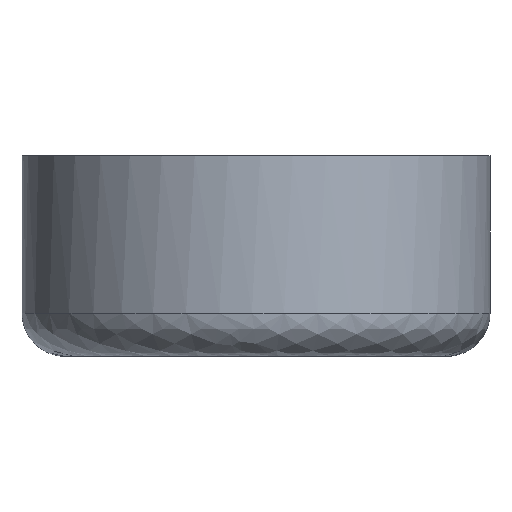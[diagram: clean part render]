
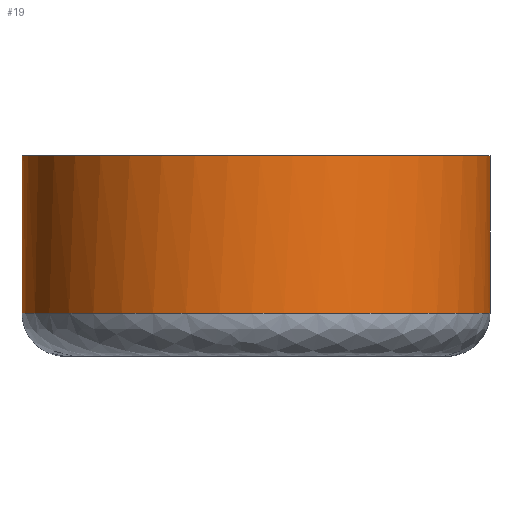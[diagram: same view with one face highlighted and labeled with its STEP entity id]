
A CAD part, front view. The second image highlights one B-rep face of the part: STEP entity #19.
In plain terms, the highlighted free-form (B-spline) face has degree [2, 1] with [5, 2] control points.
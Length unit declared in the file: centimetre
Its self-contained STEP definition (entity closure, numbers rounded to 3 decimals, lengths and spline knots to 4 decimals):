
#19=ADVANCED_FACE('',(#51),#452,.T.);
#51=FACE_OUTER_BOUND('',#84,.T.);
#84=EDGE_LOOP('',(#131,#132,#133,#134));
#131=ORIENTED_EDGE('',*,*,#268,.T.);
#132=ORIENTED_EDGE('',*,*,#269,.T.);
#133=ORIENTED_EDGE('',*,*,#267,.T.);
#134=ORIENTED_EDGE('',*,*,#266,.T.);
#266=EDGE_CURVE('',#409,#407,#332,.T.);
#267=EDGE_CURVE('',#410,#409,#364,.T.);
#268=EDGE_CURVE('',#407,#408,#365,.T.);
#269=EDGE_CURVE('',#408,#410,#333,.T.);
#332=B_SPLINE_CURVE_WITH_KNOTS('',1,(#1271,#1272),.UNSPECIFIED.,.F.,.F.,
(2,2),(0.7762,2.3071),.UNSPECIFIED.);
#333=B_SPLINE_CURVE_WITH_KNOTS('',1,(#1283,#1284),.UNSPECIFIED.,.F.,.F.,
(2,2),(-2.3071,-0.7762),.UNSPECIFIED.);
#364=(
BOUNDED_CURVE()
B_SPLINE_CURVE(2,(#1273,#1274,#1275,#1276,#1277),.UNSPECIFIED.,.F.,.F.)
B_SPLINE_CURVE_WITH_KNOTS((3,2,3),(0.,6.283,12.5661),
 .UNSPECIFIED.)
CURVE()
GEOMETRIC_REPRESENTATION_ITEM()
RATIONAL_B_SPLINE_CURVE((1.,0.707,1.,0.707,1.))
REPRESENTATION_ITEM('')
);
#365=(
BOUNDED_CURVE()
B_SPLINE_CURVE(2,(#1278,#1279,#1280,#1281,#1282),.UNSPECIFIED.,.F.,.F.)
B_SPLINE_CURVE_WITH_KNOTS((3,2,3),(-15.708,-7.854,0.),
 .UNSPECIFIED.)
CURVE()
GEOMETRIC_REPRESENTATION_ITEM()
RATIONAL_B_SPLINE_CURVE((1.,0.707,1.,0.707,1.))
REPRESENTATION_ITEM('')
);
#407=VERTEX_POINT('',#1094);
#408=VERTEX_POINT('',#1095);
#409=VERTEX_POINT('',#1096);
#410=VERTEX_POINT('',#1097);
#452=(
BOUNDED_SURFACE()
B_SPLINE_SURFACE(2,1,((#944,#945),(#946,#947),(#948,#949),(#950,#951),(#952,
#953)),.UNSPECIFIED.,.F.,.F.,.F.)
B_SPLINE_SURFACE_WITH_KNOTS((3,2,3),(2,2),(0.,7.854,15.708),
(0.7762,2.3071),.UNSPECIFIED.)
GEOMETRIC_REPRESENTATION_ITEM()
RATIONAL_B_SPLINE_SURFACE(((1.,1.),(0.707,0.707),
(1.,1.),(0.707,0.707),(1.,1.)))
REPRESENTATION_ITEM('')
SURFACE()
);
#944=CARTESIAN_POINT('',(5.4289,0.,0.9));
#945=CARTESIAN_POINT('',(5.4289,0.,4.2003));
#946=CARTESIAN_POINT('',(5.4289,-4.9,0.9));
#947=CARTESIAN_POINT('',(5.4289,-4.9,4.2003));
#948=CARTESIAN_POINT('',(10.3289,-4.9,0.9));
#949=CARTESIAN_POINT('',(10.3289,-4.9,4.2003));
#950=CARTESIAN_POINT('',(15.2289,-4.9,0.9));
#951=CARTESIAN_POINT('',(15.2289,-4.9,4.2003));
#952=CARTESIAN_POINT('',(15.2289,0.,0.9));
#953=CARTESIAN_POINT('',(15.2289,0.,4.2003));
#1094=CARTESIAN_POINT('',(15.2289,0.,4.2003));
#1095=CARTESIAN_POINT('',(5.4289,0.,4.2003));
#1096=CARTESIAN_POINT('',(15.2289,0.,0.9));
#1097=CARTESIAN_POINT('',(5.4289,0.,0.9));
#1271=CARTESIAN_POINT('',(15.2289,0.,0.9));
#1272=CARTESIAN_POINT('',(15.2289,0.,4.2003));
#1273=CARTESIAN_POINT('',(5.4289,0.,0.9));
#1274=CARTESIAN_POINT('',(5.4289,-4.9,0.9));
#1275=CARTESIAN_POINT('',(10.3289,-4.9,0.9));
#1276=CARTESIAN_POINT('',(15.2289,-4.9,0.9));
#1277=CARTESIAN_POINT('',(15.2289,0.,0.9));
#1278=CARTESIAN_POINT('',(15.2289,0.,4.2003));
#1279=CARTESIAN_POINT('',(15.2289,-4.9,4.2003));
#1280=CARTESIAN_POINT('',(10.3289,-4.9,4.2003));
#1281=CARTESIAN_POINT('',(5.4289,-4.9,4.2003));
#1282=CARTESIAN_POINT('',(5.4289,0.,4.2003));
#1283=CARTESIAN_POINT('',(5.4289,0.,4.2003));
#1284=CARTESIAN_POINT('',(5.4289,0.,0.9));
